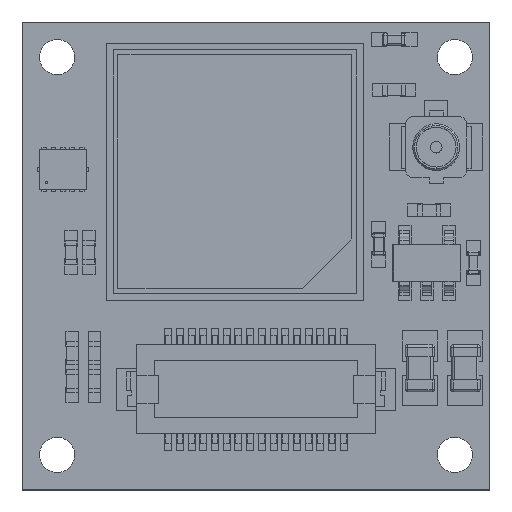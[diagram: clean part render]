
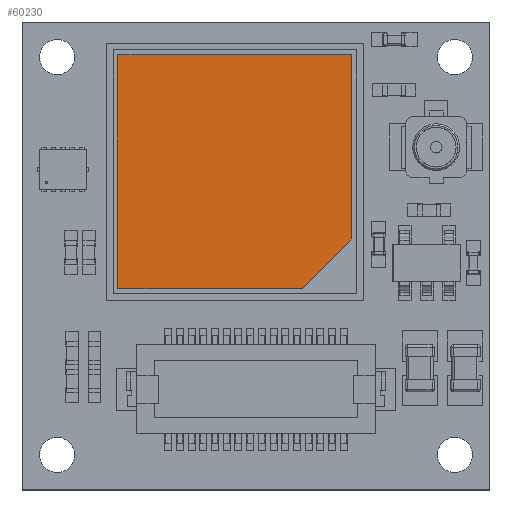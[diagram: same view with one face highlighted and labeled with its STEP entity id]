
A CAD part, top view. The second image highlights one B-rep face of the part: STEP entity #60230.
In plain terms, the highlighted planar face has unit normal (0, 0, 1).
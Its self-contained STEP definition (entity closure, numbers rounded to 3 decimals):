
#59124 = PLANE('',#59125);
#59125 = AXIS2_PLACEMENT_3D('',#59126,#59127,#59128);
#59126 = CARTESIAN_POINT('',(19.1,23.6,3.4));
#59127 = DIRECTION('',(-0.,0.,-1.));
#59128 = DIRECTION('',(0.,-1.,-0.));
#60090 = EDGE_CURVE('',#60091,#60093,#60095,.T.);
#60091 = VERTEX_POINT('',#60092);
#60092 = CARTESIAN_POINT('',(21.979,18.6,3.4));
#60093 = VERTEX_POINT('',#60094);
#60094 = CARTESIAN_POINT('',(14.1,18.6,3.4));
#60095 = SURFACE_CURVE('',#60096,(#60100,#60107),.PCURVE_S1.);
#60096 = LINE('',#60097,#60098);
#60097 = CARTESIAN_POINT('',(21.979,18.6,3.4));
#60098 = VECTOR('',#60099,1.);
#60099 = DIRECTION('',(-1.,0.,0.));
#60100 = PCURVE('',#59124,#60101);
#60101 = DEFINITIONAL_REPRESENTATION('',(#60102),#60106);
#60102 = LINE('',#60103,#60104);
#60103 = CARTESIAN_POINT('',(5.,-2.879));
#60104 = VECTOR('',#60105,1.);
#60105 = DIRECTION('',(0.,1.));
#60106 = ( GEOMETRIC_REPRESENTATION_CONTEXT(2) 
PARAMETRIC_REPRESENTATION_CONTEXT() REPRESENTATION_CONTEXT('2D SPACE',''
  ) );
#60107 = PCURVE('',#60108,#60113);
#60108 = PLANE('',#60109);
#60109 = AXIS2_PLACEMENT_3D('',#60110,#60111,#60112);
#60110 = CARTESIAN_POINT('',(19.1,23.6,3.4));
#60111 = DIRECTION('',(-0.,0.,-1.));
#60112 = DIRECTION('',(0.,-1.,-0.));
#60113 = DEFINITIONAL_REPRESENTATION('',(#60114),#60118);
#60114 = LINE('',#60115,#60116);
#60115 = CARTESIAN_POINT('',(5.,-2.879));
#60116 = VECTOR('',#60117,1.);
#60117 = DIRECTION('',(0.,1.));
#60118 = ( GEOMETRIC_REPRESENTATION_CONTEXT(2) 
PARAMETRIC_REPRESENTATION_CONTEXT() REPRESENTATION_CONTEXT('2D SPACE',''
  ) );
#60120 = EDGE_CURVE('',#60091,#60121,#60123,.T.);
#60121 = VERTEX_POINT('',#60122);
#60122 = CARTESIAN_POINT('',(24.1,20.721,3.4));
#60123 = SURFACE_CURVE('',#60124,(#60128,#60135),.PCURVE_S1.);
#60124 = LINE('',#60125,#60126);
#60125 = CARTESIAN_POINT('',(21.979,18.6,3.4));
#60126 = VECTOR('',#60127,1.);
#60127 = DIRECTION('',(0.707,0.707,0.));
#60128 = PCURVE('',#59124,#60129);
#60129 = DEFINITIONAL_REPRESENTATION('',(#60130),#60134);
#60130 = LINE('',#60131,#60132);
#60131 = CARTESIAN_POINT('',(5.,-2.879));
#60132 = VECTOR('',#60133,1.);
#60133 = DIRECTION('',(-0.707,-0.707));
#60134 = ( GEOMETRIC_REPRESENTATION_CONTEXT(2) 
PARAMETRIC_REPRESENTATION_CONTEXT() REPRESENTATION_CONTEXT('2D SPACE',''
  ) );
#60135 = PCURVE('',#60108,#60136);
#60136 = DEFINITIONAL_REPRESENTATION('',(#60137),#60141);
#60137 = LINE('',#60138,#60139);
#60138 = CARTESIAN_POINT('',(5.,-2.879));
#60139 = VECTOR('',#60140,1.);
#60140 = DIRECTION('',(-0.707,-0.707));
#60141 = ( GEOMETRIC_REPRESENTATION_CONTEXT(2) 
PARAMETRIC_REPRESENTATION_CONTEXT() REPRESENTATION_CONTEXT('2D SPACE',''
  ) );
#60143 = EDGE_CURVE('',#60121,#60144,#60146,.T.);
#60144 = VERTEX_POINT('',#60145);
#60145 = CARTESIAN_POINT('',(24.1,28.6,3.4));
#60146 = SURFACE_CURVE('',#60147,(#60151,#60158),.PCURVE_S1.);
#60147 = LINE('',#60148,#60149);
#60148 = CARTESIAN_POINT('',(24.1,20.721,3.4));
#60149 = VECTOR('',#60150,1.);
#60150 = DIRECTION('',(0.,1.,0.));
#60151 = PCURVE('',#59124,#60152);
#60152 = DEFINITIONAL_REPRESENTATION('',(#60153),#60157);
#60153 = LINE('',#60154,#60155);
#60154 = CARTESIAN_POINT('',(2.879,-5.));
#60155 = VECTOR('',#60156,1.);
#60156 = DIRECTION('',(-1.,0.));
#60157 = ( GEOMETRIC_REPRESENTATION_CONTEXT(2) 
PARAMETRIC_REPRESENTATION_CONTEXT() REPRESENTATION_CONTEXT('2D SPACE',''
  ) );
#60158 = PCURVE('',#60108,#60159);
#60159 = DEFINITIONAL_REPRESENTATION('',(#60160),#60164);
#60160 = LINE('',#60161,#60162);
#60161 = CARTESIAN_POINT('',(2.879,-5.));
#60162 = VECTOR('',#60163,1.);
#60163 = DIRECTION('',(-1.,0.));
#60164 = ( GEOMETRIC_REPRESENTATION_CONTEXT(2) 
PARAMETRIC_REPRESENTATION_CONTEXT() REPRESENTATION_CONTEXT('2D SPACE',''
  ) );
#60166 = EDGE_CURVE('',#60167,#60144,#60169,.T.);
#60167 = VERTEX_POINT('',#60168);
#60168 = CARTESIAN_POINT('',(14.1,28.6,3.4));
#60169 = SURFACE_CURVE('',#60170,(#60174,#60181),.PCURVE_S1.);
#60170 = LINE('',#60171,#60172);
#60171 = CARTESIAN_POINT('',(14.1,28.6,3.4));
#60172 = VECTOR('',#60173,1.);
#60173 = DIRECTION('',(1.,0.,0.));
#60174 = PCURVE('',#59124,#60175);
#60175 = DEFINITIONAL_REPRESENTATION('',(#60176),#60180);
#60176 = LINE('',#60177,#60178);
#60177 = CARTESIAN_POINT('',(-5.,5.));
#60178 = VECTOR('',#60179,1.);
#60179 = DIRECTION('',(0.,-1.));
#60180 = ( GEOMETRIC_REPRESENTATION_CONTEXT(2) 
PARAMETRIC_REPRESENTATION_CONTEXT() REPRESENTATION_CONTEXT('2D SPACE',''
  ) );
#60181 = PCURVE('',#60108,#60182);
#60182 = DEFINITIONAL_REPRESENTATION('',(#60183),#60187);
#60183 = LINE('',#60184,#60185);
#60184 = CARTESIAN_POINT('',(-5.,5.));
#60185 = VECTOR('',#60186,1.);
#60186 = DIRECTION('',(0.,-1.));
#60187 = ( GEOMETRIC_REPRESENTATION_CONTEXT(2) 
PARAMETRIC_REPRESENTATION_CONTEXT() REPRESENTATION_CONTEXT('2D SPACE',''
  ) );
#60189 = EDGE_CURVE('',#60093,#60167,#60190,.T.);
#60190 = SURFACE_CURVE('',#60191,(#60195,#60202),.PCURVE_S1.);
#60191 = LINE('',#60192,#60193);
#60192 = CARTESIAN_POINT('',(14.1,18.6,3.4));
#60193 = VECTOR('',#60194,1.);
#60194 = DIRECTION('',(0.,1.,0.));
#60195 = PCURVE('',#59124,#60196);
#60196 = DEFINITIONAL_REPRESENTATION('',(#60197),#60201);
#60197 = LINE('',#60198,#60199);
#60198 = CARTESIAN_POINT('',(5.,5.));
#60199 = VECTOR('',#60200,1.);
#60200 = DIRECTION('',(-1.,0.));
#60201 = ( GEOMETRIC_REPRESENTATION_CONTEXT(2) 
PARAMETRIC_REPRESENTATION_CONTEXT() REPRESENTATION_CONTEXT('2D SPACE',''
  ) );
#60202 = PCURVE('',#60108,#60203);
#60203 = DEFINITIONAL_REPRESENTATION('',(#60204),#60208);
#60204 = LINE('',#60205,#60206);
#60205 = CARTESIAN_POINT('',(5.,5.));
#60206 = VECTOR('',#60207,1.);
#60207 = DIRECTION('',(-1.,0.));
#60208 = ( GEOMETRIC_REPRESENTATION_CONTEXT(2) 
PARAMETRIC_REPRESENTATION_CONTEXT() REPRESENTATION_CONTEXT('2D SPACE',''
  ) );
#60230 = ADVANCED_FACE('',(#60231),#60108,.F.);
#60231 = FACE_BOUND('',#60232,.F.);
#60232 = EDGE_LOOP('',(#60233,#60234,#60235,#60236,#60237));
#60233 = ORIENTED_EDGE('',*,*,#60120,.F.);
#60234 = ORIENTED_EDGE('',*,*,#60090,.T.);
#60235 = ORIENTED_EDGE('',*,*,#60189,.T.);
#60236 = ORIENTED_EDGE('',*,*,#60166,.T.);
#60237 = ORIENTED_EDGE('',*,*,#60143,.F.);
